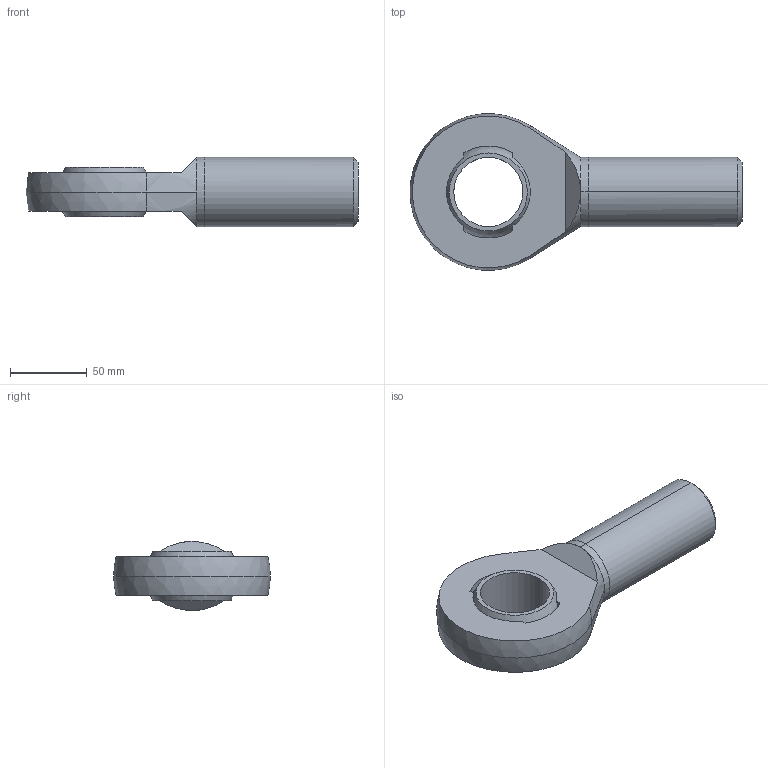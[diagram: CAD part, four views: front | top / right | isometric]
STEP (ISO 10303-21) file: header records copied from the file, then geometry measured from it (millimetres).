
FILE_DESCRIPTION (( 'STEP AP203' ), '1' );
FILE_NAME ('65860.W0545.step', '2014-02-06T11:42:10', ( 'User' ), ( '' ), 'SwSTEP 2.0', 'SolidWorks 2009', '' );
FILE_SCHEMA (( 'CONFIG_CONTROL_DESIGN' ));
Length unit declared in the file: millimetre
Products named in the file (3): Part1_65860.W0545; Part2_65860.W0545; 65860.W0545
Assembly tree (2 placements, depth 2):
  65860.W0545
    Part1_65860.W0545
    Part2_65860.W0545
Bounding box: 216 x 101.75 x 45 mm (x, y, z)
Volume: 350664.8 mm3; surface area: 51937.7 mm2
Topology: 2 solids, 2 shells, 35 faces, 82 edges, 51 vertices
Faces by surface type: plane 15, sphere 8, cylinder 8, cone 4
Entity records: 1389 total; most frequent: CARTESIAN_POINT 263, DIRECTION 196, ORIENTED_EDGE 160, AXIS2_PLACEMENT_3D 84, EDGE_CURVE 80, VERTEX_POINT 51, CIRCLE 44, EDGE_LOOP 41
